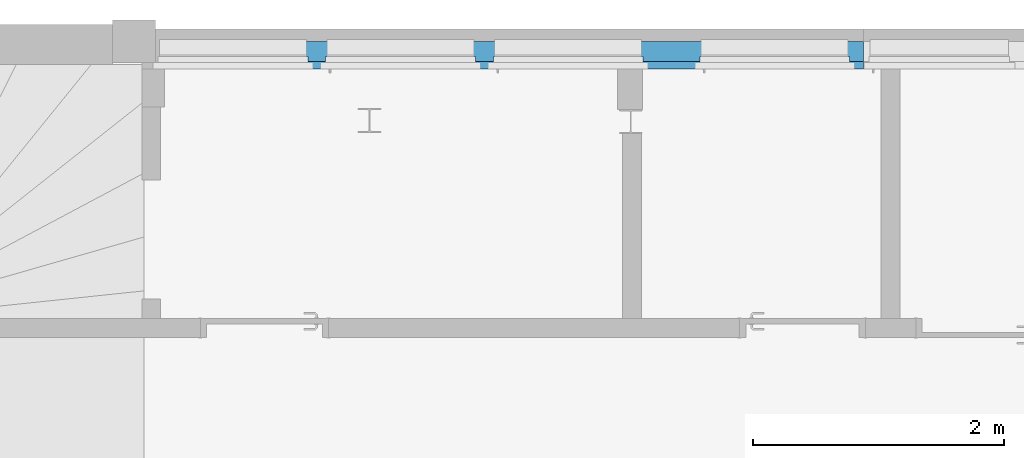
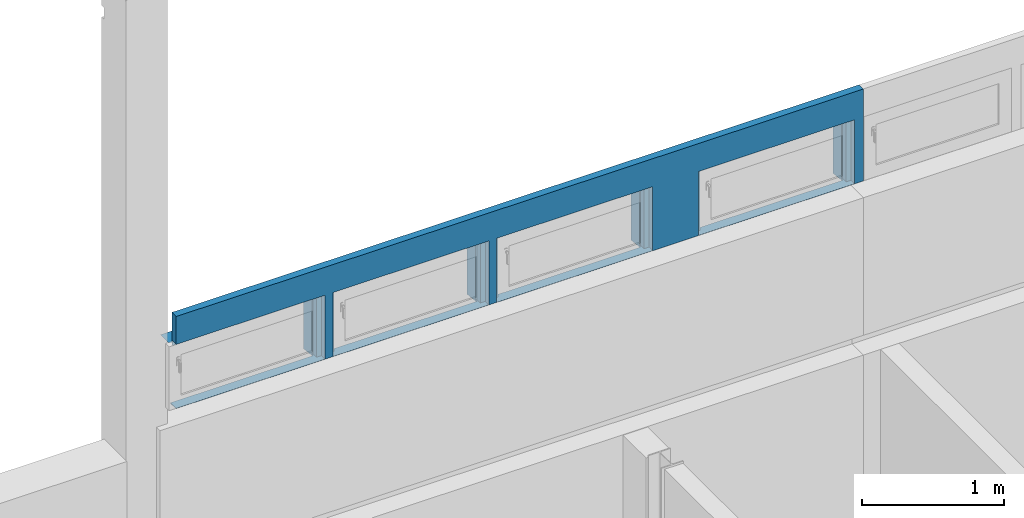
# One storey, part 15 of 39: 1 wall, 4 openings.
"""IFC4 building model written with IfcOpenShell, lengths in metres."""

from ifc_helpers import new_model, entity, si_unit, converted_unit, derived_unit, direction, frame, origin, place, context, subcontext, project, spatial, polygons, material, layer, layer_set, type_object, element, save


model = new_model("IFC4")

# Units and contexts
model_context = context("Model", 3, precision=1e-05, world=origin(), true_north=direction((6.12303176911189e-17, 1.0)))
body_context = subcontext(model_context, "Body", "Model", "MODEL_VIEW")
ifc_project = project(units=[si_unit("LENGTHUNIT", "METRE"), si_unit("AREAUNIT", "SQUARE_METRE"), si_unit("VOLUMEUNIT", "CUBIC_METRE"), converted_unit("PLANEANGLEUNIT", "DEGREE", entity("IfcRatioMeasure", 0.0174532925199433), si_unit("PLANEANGLEUNIT", "RADIAN"), dimensions=[0, 0, 0, 0, 0, 0, 0]), si_unit("MASSUNIT", "GRAM", prefix="KILO"), derived_unit("MASSDENSITYUNIT", [(si_unit("MASSUNIT", "GRAM", prefix="KILO"), 1), (si_unit("LENGTHUNIT", "METRE"), -3)]), derived_unit("MOMENTOFINERTIAUNIT", [(si_unit("LENGTHUNIT", "METRE"), 4)]), si_unit("TIMEUNIT", "SECOND"), si_unit("FREQUENCYUNIT", "HERTZ"), si_unit("THERMODYNAMICTEMPERATUREUNIT", "DEGREE_CELSIUS"), derived_unit("THERMALTRANSMITTANCEUNIT", [(si_unit("MASSUNIT", "GRAM", prefix="KILO"), 1), (si_unit("THERMODYNAMICTEMPERATUREUNIT", "KELVIN"), -1), (si_unit("TIMEUNIT", "SECOND"), -3)]), derived_unit("VOLUMETRICFLOWRATEUNIT", [(si_unit("LENGTHUNIT", "METRE"), 3), (si_unit("TIMEUNIT", "SECOND"), -1)]), si_unit("ELECTRICCURRENTUNIT", "AMPERE"), si_unit("ELECTRICVOLTAGEUNIT", "VOLT"), si_unit("POWERUNIT", "WATT"), si_unit("FORCEUNIT", "NEWTON", prefix="KILO"), si_unit("ILLUMINANCEUNIT", "LUX"), si_unit("LUMINOUSFLUXUNIT", "LUMEN"), si_unit("LUMINOUSINTENSITYUNIT", "CANDELA"), derived_unit("USERDEFINED", [(si_unit("MASSUNIT", "GRAM", prefix="KILO"), -1), (si_unit("LENGTHUNIT", "METRE"), -2), (si_unit("TIMEUNIT", "SECOND"), 3), (si_unit("LUMINOUSFLUXUNIT", "LUMEN"), 1)]), derived_unit("LINEARVELOCITYUNIT", [(si_unit("LENGTHUNIT", "METRE"), 1), (si_unit("TIMEUNIT", "SECOND"), -1)]), si_unit("PRESSUREUNIT", "PASCAL"), derived_unit("USERDEFINED", [(si_unit("LENGTHUNIT", "METRE"), -2), (si_unit("MASSUNIT", "GRAM", prefix="KILO"), 1), (si_unit("TIMEUNIT", "SECOND"), -2)]), derived_unit("LINEARFORCEUNIT", [(si_unit("MASSUNIT", "GRAM", prefix="KILO"), 1), (si_unit("LENGTHUNIT", "METRE"), 1), (si_unit("TIMEUNIT", "SECOND"), -2), (si_unit("LENGTHUNIT", "METRE"), -1)]), derived_unit("PLANARFORCEUNIT", [(si_unit("MASSUNIT", "GRAM", prefix="KILO"), 1), (si_unit("LENGTHUNIT", "METRE"), 1), (si_unit("TIMEUNIT", "SECOND"), -2), (si_unit("LENGTHUNIT", "METRE"), -2)])], contexts=[model_context])

# Site, building, storey
site_placement = place(None, origin())
site = spatial("IfcSite", under=ifc_project, at=site_placement, Name="Default", CompositionType="ELEMENT")
building_placement = place(site_placement, origin())
building = spatial("IfcBuilding", under=site, at=building_placement, Name="HOTEL CONSULAIRE BOULOGNE SUR MER", CompositionType="ELEMENT")
storey_placement = place(building_placement, frame((0.0, 0.0, -5.02343668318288)))
storey = spatial("IfcBuildingStorey", under=building, at=storey_placement, Name="SS3", CompositionType="ELEMENT", Elevation=-5.02343668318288)

# Wall, openings
ifc_material = material(Name="Mur par défaut", Category="Divers")
ifc_layer = layer(ifc_material, 0.22, Name="Mur par défaut", Category="Divers")
ifc_layer_set = layer_set([ifc_layer], Name="Mur de base:Générique - Ext. 220 mm")
wall_type = type_object("IfcWallType", Name="Mur de base:Générique - Ext. 220 mm", PredefinedType="NOTDEFINED", material=ifc_layer_set)
wall_placement = place(storey_placement, frame((-1.1294235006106, -10.02432416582, 3.9387775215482)))
wall = element("IfcWall", 1, at=wall_placement, inside=storey, type_object=wall_type, material=ifc_layer_set, Name="Mur de base:Générique - Ext. 220 mm", ObjectType="Mur de base:Générique - Ext. 220 mm", PredefinedType="NOTDEFINED", context=body_context, shape_type="Tessellation", body=[
    polygons([(1.76596894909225e-15, 0.110000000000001, 0.524459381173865), (1.8350879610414e-15, -0.00999999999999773, 0.524459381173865), (1.8350879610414e-15, -0.00999999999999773, 0.524659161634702), (1.76596894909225e-15, 0.110000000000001, 0.524659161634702), (1.96036633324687e-15, -0.109999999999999, 0.0244593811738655), (1.9142869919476e-15, -0.0300000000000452, 0.0244593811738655), (1.91428699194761e-15, -0.0300000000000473, 0.0147145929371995), (1.96036633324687e-15, -0.109999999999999, 0.023122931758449), (5.592, -0.109999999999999, 0.814659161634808), (5.58760027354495, -0.109999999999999, 0.814659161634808), (5.50760027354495, -0.109999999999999, 0.814659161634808), (2.63715828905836e-15, -0.109999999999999, 0.814659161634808), (4.71424030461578e-16, -0.109999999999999, 0.574459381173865), (1.211, -0.109999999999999, 0.574459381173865), (1.211, -0.109999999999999, 0.0244593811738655), (1.161, -0.109999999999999, 0.0244593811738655), (5.592, -0.109999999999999, 0.0231229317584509), (2.60700000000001, -0.109999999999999, 0.0244593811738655), (2.60700000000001, -0.109999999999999, 0.574459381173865), (3.877, -0.109999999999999, 0.574459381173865), (3.877, -0.109999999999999, 0.0244593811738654), (4.2500475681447, -0.109999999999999, 0.0244593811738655), (4.2500475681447, -0.109999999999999, 0.574459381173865), (5.5200475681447, -0.109999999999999, 0.574459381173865), (5.5200475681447, -0.109999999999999, 0.0244593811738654), (2.544, -0.109999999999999, 0.0244593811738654), (1.27400000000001, -0.109999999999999, 0.0244593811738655), (1.27400000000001, -0.109999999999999, 0.574459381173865), (2.544, -0.109999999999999, 0.574459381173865), (3.827, 0.110000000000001, 0.524459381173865), (2.65700000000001, 0.110000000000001, 0.524459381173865), (2.65700000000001, 0.110000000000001, 5.41433564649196e-16), (2.494, 0.109999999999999, 5.41433564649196e-16), (2.494, 0.109999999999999, 0.524459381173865), (1.32400000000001, 0.110000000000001, 0.524459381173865), (1.32400000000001, 0.110000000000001, 0.0), (1.16100000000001, 0.110000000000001, 0.0), (1.161, 0.110000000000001, 0.524459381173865), (5.592, 0.110000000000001, 0.524659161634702), (5.592, 0.110000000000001, 1.48894230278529e-15), (5.4700475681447, 0.110000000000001, 1.35358391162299e-15), (5.4700475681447, 0.110000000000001, 0.524459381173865), (4.3000475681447, 0.110000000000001, 0.524459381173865), (4.3000475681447, 0.110000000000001, 1.08286712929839e-15), (3.827, 0.110000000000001, 8.12150346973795e-16), (5.592, -0.0503081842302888, 0.814659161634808), (5.592, -0.050308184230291, 0.524659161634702), (2.40078159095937e-15, -0.0503081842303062, 0.814659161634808), (2.657, -0.00999999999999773, 0.0244593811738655), (2.657, -0.0300000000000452, 0.0244593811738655), (2.657, -0.0300000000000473, 0.0147145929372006), (2.657, -0.00999999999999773, 0.524459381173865), (3.827, -0.0300000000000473, 0.0244593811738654), (3.827, -0.00999999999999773, 0.0244593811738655), (3.827, -0.00999999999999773, 0.524459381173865), (3.827, -0.0300000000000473, 0.0147145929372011), (2.647, -0.00999999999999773, 0.0244593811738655), (2.647, -0.0600000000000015, 0.0244593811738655), (2.60700000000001, -0.0600000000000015, 0.0244593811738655), (3.877, -0.0600000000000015, 0.0244593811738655), (3.837, -0.0600000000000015, 0.0244593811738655), (3.837, -0.00999999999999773, 0.0244593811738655), (2.60700000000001, -0.0600000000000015, 0.574459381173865), (2.647, -0.0600000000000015, 0.534459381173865), (3.837, -0.0600000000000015, 0.534459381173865), (3.877, -0.0600000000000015, 0.574459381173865), (2.647, -0.00999999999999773, 0.524659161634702), (2.647, -0.0503081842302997, 0.524659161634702), (2.647, -0.0503081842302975, 0.534459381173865), (3.837, -0.00999999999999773, 0.524659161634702), (3.837, -0.0503081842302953, 0.534459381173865), (3.837, -0.0503081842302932, 0.524659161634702), (4.3000475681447, -0.00999999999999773, 0.0244593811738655), (4.3000475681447, -0.0300000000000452, 0.0244593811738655), (4.3000475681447, -0.0300000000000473, 0.014714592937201), (4.3000475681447, -0.00999999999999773, 0.524459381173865), (5.4700475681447, -0.0300000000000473, 0.0244593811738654), (5.4700475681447, -0.00999999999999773, 0.0244593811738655), (5.4700475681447, -0.00999999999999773, 0.524459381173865), (5.4700475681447, -0.0300000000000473, 0.0147145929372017), (4.2900475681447, -0.00999999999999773, 0.0244593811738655), (4.29004756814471, -0.0600000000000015, 0.0244593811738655), (4.25004756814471, -0.0600000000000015, 0.0244593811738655), (5.5200475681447, -0.0600000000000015, 0.0244593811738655), (5.4800475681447, -0.0600000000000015, 0.0244593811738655), (5.4800475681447, -0.00999999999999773, 0.0244593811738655), (4.25004756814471, -0.0600000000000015, 0.574459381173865), (4.29004756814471, -0.0600000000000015, 0.534459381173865), (5.4800475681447, -0.0600000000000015, 0.534459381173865), (5.5200475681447, -0.0600000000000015, 0.574459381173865), (4.29004756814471, -0.00999999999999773, 0.524659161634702), (4.29004756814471, -0.0503081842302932, 0.524659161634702), (4.29004756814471, -0.0503081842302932, 0.534459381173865), (5.4800475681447, -0.00999999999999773, 0.524659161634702), (5.4800475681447, -0.0503081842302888, 0.534459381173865), (5.4800475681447, -0.0503081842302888, 0.524659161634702), (1.324, -0.00999999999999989, 0.524459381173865), (1.324, -0.00999999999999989, 0.0244593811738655), (1.324, -0.0300000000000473, 0.0244593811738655), (1.324, -0.0300000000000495, 0.0147145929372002), (2.494, -0.0300000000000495, 0.0244593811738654), (2.494, -0.00999999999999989, 0.0244593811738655), (2.494, -0.00999999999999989, 0.524459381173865), (2.494, -0.0300000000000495, 0.0147145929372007), (1.314, -0.00999999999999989, 0.0244593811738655), (1.314, -0.0600000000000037, 0.0244593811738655), (1.274, -0.0600000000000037, 0.0244593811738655), (2.544, -0.0600000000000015, 0.0244593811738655), (2.504, -0.0600000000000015, 0.0244593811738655), (2.504, -0.00999999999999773, 0.0244593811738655), (1.274, -0.0600000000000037, 0.574459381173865), (1.314, -0.0600000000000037, 0.534459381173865), (2.504, -0.0600000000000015, 0.534459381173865), (2.544, -0.0600000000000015, 0.574459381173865), (1.314, -0.00999999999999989, 0.524659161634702), (1.314, -0.050308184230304, 0.524659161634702), (1.314, -0.050308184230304, 0.534459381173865), (2.504, -0.00999999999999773, 0.524659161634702), (2.504, -0.0503081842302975, 0.534459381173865), (2.504, -0.0503081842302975, 0.524659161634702), (1.161, -0.0300000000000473, 0.0244593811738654), (1.161, -0.00999999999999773, 0.0244593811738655), (1.161, -0.00999999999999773, 0.524459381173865), (1.161, -0.0300000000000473, 0.0147145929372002), (1.211, -0.0600000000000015, 0.0244593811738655), (1.171, -0.0600000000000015, 0.0244593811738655), (1.171, -0.00999999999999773, 0.0244593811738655), (1.211, -0.0600000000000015, 0.574459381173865), (1.89772714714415e-15, -0.0600000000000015, 0.574459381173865), (1.76236875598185e-15, -0.0600000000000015, 0.534459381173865), (1.171, -0.0600000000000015, 0.534459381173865), (1.171, -0.00999999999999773, 0.524659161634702), (1.85934802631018e-15, -0.0503081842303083, 0.534459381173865), (1.171, -0.050308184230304, 0.534459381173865), (1.171, -0.050308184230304, 0.524659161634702)], [[[4, 1, 2, 3]], [[6, 7, 8, 5]], [[56, 53, 54, 55, 30, 45]], [[21, 20, 66, 60]], [[65, 71, 72, 70, 62, 61]], [[80, 77, 78, 79, 42, 41]], [[25, 24, 90, 84]], [[89, 95, 96, 94, 86, 85]], [[104, 101, 102, 103, 34, 33]], [[26, 29, 114, 108]], [[113, 119, 120, 118, 110, 109]], [[124, 121, 122, 123, 38, 37]], [[15, 14, 128, 125]], [[131, 134, 135, 132, 127, 126]], [[129, 13, 12, 48, 133, 130]], [[5, 8, 17, 9, 10, 11, 12, 13, 14, 15, 16], [27, 28, 29, 26], [18, 19, 20, 21], [22, 23, 24, 25]], [[64, 65, 61, 60, 66, 63, 59, 58]], [[52, 55, 54, 62, 70, 67, 57, 49]], [[88, 89, 85, 84, 90, 87, 83, 82]], [[76, 79, 78, 86, 94, 91, 81, 73]], [[112, 113, 109, 108, 114, 111, 107, 106]], [[97, 103, 102, 110, 118, 115, 105, 98]], [[131, 126, 125, 128, 129, 130]], [[123, 122, 127, 132, 3, 2]], [[42, 43, 44, 45, 30, 31, 32, 33, 34, 35, 36, 37, 38, 1, 4, 39, 40, 41]], [[53, 56, 51, 50]], [[80, 75, 74, 77]], [[101, 104, 100, 99]], [[124, 7, 6, 121]], [[95, 93, 92, 72, 71, 69, 68, 120, 119, 117, 116, 135, 134, 133, 48, 46, 47, 96]], [[46, 9, 17, 40, 39, 47]], [[49, 50, 51, 32, 31, 52]], [[19, 18, 59, 63]], [[68, 69, 64, 58, 57, 67]], [[73, 74, 75, 44, 43, 76]], [[23, 22, 83, 87]], [[92, 93, 88, 82, 81, 91]], [[98, 99, 100, 36, 35, 97]], [[28, 27, 107, 111]], [[116, 117, 112, 106, 105, 115]], [[10, 9, 46, 48, 12, 11]], [[50, 49, 57, 58, 59, 18, 21, 60, 61, 62, 54, 53]], [[74, 73, 81, 82, 83, 22, 25, 84, 85, 86, 78, 77]], [[99, 98, 105, 106, 107, 27, 26, 108, 109, 110, 102, 101]], [[16, 15, 125, 126, 127, 122, 121, 6, 5]], [[96, 47, 39, 4, 3, 132, 135, 116, 115, 118, 120, 68, 67, 70, 72, 92, 91, 94]], [[55, 52, 31, 30]], [[66, 20, 19, 63]], [[65, 64, 69, 71]], [[79, 76, 43, 42]], [[90, 24, 23, 87]], [[95, 89, 88, 93]], [[103, 97, 35, 34]], [[114, 29, 28, 111]], [[113, 112, 117, 119]], [[123, 2, 1, 38]], [[14, 13, 129, 128]], [[131, 130, 133, 134]], [[124, 37, 36, 100, 104, 33, 32, 51, 56, 45, 44, 75, 80, 41, 40, 17, 8, 7]]], closed=True),
])
opening_1_placement = place(wall_placement, frame((1.274, -0.500000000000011, -0.0462458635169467)))
element("IfcOpeningElement", 2, at=opening_1_placement, cuts=wall, Name="Mur de base:Générique - Ext. 220 mm", ObjectType="Opening", PredefinedType="OPENING", context=body_context, shape_type="Tessellation", body=[
    polygons([(0.0499999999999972, 6.49720277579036e-15, 0.570705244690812), (0.0499999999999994, 0.390000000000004, 0.570705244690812), (0.0499999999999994, 0.390000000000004, 0.0707052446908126), (0.0499999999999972, 6.49720277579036e-15, 0.0707052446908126), (1.22, 1.0, 0.570705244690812), (1.22, 0.490000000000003, 0.570705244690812), (1.22, 0.490000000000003, 0.0707052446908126), (1.22, 0.469999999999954, 0.0707052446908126), (1.22, 0.469999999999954, 0.0557052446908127), (1.22, 1.0, 0.0), (1.22, 0.0, 0.570705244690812), (1.22, 0.39, 0.570705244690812), (0.0499999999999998, 0.46999999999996, 0.0707052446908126), (0.0499999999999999, 0.490000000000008, 0.0707052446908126), (0.0499999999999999, 0.490000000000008, 0.570705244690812), (0.0500000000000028, 1.00000000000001, 0.570705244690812), (0.0500000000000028, 1.00000000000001, 0.0), (0.0499999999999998, 0.46999999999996, 0.0557052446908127), (1.22, 0.0, 0.0707052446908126), (1.22, 0.39, 0.0707052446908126), (6.76791955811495e-17, 0.390000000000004, 0.0707052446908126), (2.70716782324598e-16, 0.440000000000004, 0.0707052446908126), (0.0399999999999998, 0.440000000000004, 0.0707052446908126), (0.04, 0.490000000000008, 0.0707052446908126), (1.23, 0.490000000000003, 0.0707052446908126), (1.23, 0.44, 0.0707052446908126), (1.27, 0.44, 0.0707052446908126), (1.27, 0.39, 0.0707052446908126), (1.01518793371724e-16, 0.390000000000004, 0.620705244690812), (3.04556380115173e-16, 0.440000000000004, 0.620705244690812), (1.27, 0.44, 0.620705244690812), (1.23, 0.44, 0.580705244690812), (0.0399999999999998, 0.440000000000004, 0.580705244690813), (0.04, 0.490000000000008, 0.580705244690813), (1.23, 0.490000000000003, 0.580705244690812), (1.27, 0.39, 0.620705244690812)], [[[2, 3, 4, 1]], [[16, 17, 18, 13, 14, 15]], [[22, 21, 29, 30]], [[24, 23, 33, 34]], [[7, 8, 9, 10, 5, 6]], [[11, 19, 20, 12]], [[31, 36, 28, 27]], [[35, 32, 26, 25]], [[2, 1, 11, 12]], [[16, 15, 6, 5]], [[30, 29, 36, 31]], [[34, 33, 32, 35]], [[24, 14, 13, 8, 7, 25, 26, 27, 28, 20, 19, 4, 3, 21, 22, 23]], [[1, 4, 19, 11]], [[13, 18, 9, 8]], [[20, 28, 36, 29, 21, 3, 2, 12]], [[17, 16, 5, 10]], [[23, 22, 30, 31, 27, 26, 32, 33]], [[14, 24, 34, 35, 25, 7, 6, 15]], [[18, 17, 10, 9]]], closed=True),
])
opening_2_placement = place(wall_placement, frame((-0.0589999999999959, -0.500000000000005, -0.0462458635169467)))
element("IfcOpeningElement", 3, at=opening_2_placement, cuts=wall, Name="Mur de base:Générique - Ext. 220 mm", ObjectType="Opening", PredefinedType="OPENING", context=body_context, shape_type="Tessellation", body=[
    polygons([(0.049999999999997, 6.49720277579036e-15, 0.570705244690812), (0.0499999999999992, 0.390000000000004, 0.570705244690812), (0.0499999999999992, 0.390000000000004, 0.0707052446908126), (0.049999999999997, 6.49720277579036e-15, 0.0707052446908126), (1.22, 1.0, 0.570705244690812), (1.22, 0.490000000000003, 0.570705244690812), (1.22, 0.490000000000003, 0.0707052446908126), (1.22, 0.469999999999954, 0.0707052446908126), (1.22, 0.469999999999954, 0.0557052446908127), (1.22, 1.0, 0.0), (1.22, 0.0, 0.570705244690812), (1.22, 0.39, 0.570705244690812), (0.0499999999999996, 0.46999999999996, 0.0707052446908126), (0.0499999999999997, 0.490000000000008, 0.0707052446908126), (0.0499999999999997, 0.490000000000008, 0.570705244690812), (0.0500000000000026, 1.00000000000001, 0.570705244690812), (0.0500000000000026, 1.00000000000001, 0.0), (0.0499999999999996, 0.46999999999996, 0.0557052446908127), (1.22, 0.0, 0.0707052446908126), (1.22, 0.39, 0.0707052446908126), (0.0, 0.390000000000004, 0.0707052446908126), (1.35358391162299e-16, 0.440000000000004, 0.0707052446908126), (0.0399999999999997, 0.440000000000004, 0.0707052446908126), (0.04, 0.490000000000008, 0.0707052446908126), (1.23, 0.490000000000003, 0.0707052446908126), (1.23, 0.44, 0.0707052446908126), (1.27, 0.44, 0.0707052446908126), (1.27, 0.39, 0.0707052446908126), (0.0, 0.390000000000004, 0.620705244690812), (1.35358391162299e-16, 0.440000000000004, 0.620705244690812), (1.27, 0.44, 0.620705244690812), (1.23, 0.44, 0.580705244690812), (0.0399999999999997, 0.440000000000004, 0.580705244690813), (0.0399999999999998, 0.490000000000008, 0.580705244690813), (1.23, 0.490000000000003, 0.580705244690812), (1.27, 0.39, 0.620705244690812)], [[[2, 3, 4, 1]], [[16, 17, 18, 13, 14, 15]], [[22, 21, 29, 30]], [[24, 23, 33, 34]], [[7, 8, 9, 10, 5, 6]], [[11, 19, 20, 12]], [[31, 36, 28, 27]], [[35, 32, 26, 25]], [[2, 1, 11, 12]], [[16, 15, 6, 5]], [[30, 29, 36, 31]], [[34, 33, 32, 35]], [[24, 14, 13, 8, 7, 25, 26, 27, 28, 20, 19, 4, 3, 21, 22, 23]], [[1, 4, 19, 11]], [[13, 18, 9, 8]], [[20, 28, 36, 29, 21, 3, 2, 12]], [[17, 16, 5, 10]], [[23, 22, 30, 31, 27, 26, 32, 33]], [[14, 24, 34, 35, 25, 7, 6, 15]], [[18, 17, 10, 9]]], closed=True),
])
opening_3_placement = place(wall_placement, frame((2.607, -0.500000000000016, -0.0462458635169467)))
element("IfcOpeningElement", 4, at=opening_3_placement, cuts=wall, Name="Mur de base:Générique - Ext. 220 mm", ObjectType="Opening", PredefinedType="OPENING", context=body_context, shape_type="Tessellation", body=[
    polygons([(0.0499999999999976, 6.49720277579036e-15, 0.570705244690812), (0.0499999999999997, 0.390000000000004, 0.570705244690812), (0.0499999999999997, 0.390000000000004, 0.0707052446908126), (0.0499999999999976, 6.49720277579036e-15, 0.0707052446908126), (1.22, 1.0, 0.570705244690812), (1.22, 0.490000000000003, 0.570705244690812), (1.22, 0.490000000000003, 0.0707052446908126), (1.22, 0.469999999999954, 0.0707052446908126), (1.22, 0.469999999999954, 0.0557052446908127), (1.22, 1.0, 0.0), (1.22, 0.0, 0.570705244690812), (1.22, 0.39, 0.570705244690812), (0.0500000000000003, 0.46999999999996, 0.0707052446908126), (0.0500000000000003, 0.490000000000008, 0.0707052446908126), (0.0500000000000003, 0.490000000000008, 0.570705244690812), (0.0500000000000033, 1.00000000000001, 0.570705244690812), (0.0500000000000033, 1.00000000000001, 0.0), (0.0500000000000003, 0.46999999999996, 0.0557052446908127), (1.22, 0.0, 0.0707052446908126), (1.22, 0.39, 0.0707052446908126), (5.41433564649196e-16, 0.390000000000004, 0.0707052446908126), (8.12150346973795e-16, 0.440000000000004, 0.0707052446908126), (0.0400000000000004, 0.440000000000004, 0.0707052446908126), (0.0400000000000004, 0.490000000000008, 0.0707052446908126), (1.23, 0.490000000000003, 0.0707052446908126), (1.23, 0.44, 0.0707052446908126), (1.27, 0.44, 0.0707052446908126), (1.27, 0.39, 0.0707052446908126), (2.70716782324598e-16, 0.390000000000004, 0.620705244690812), (5.41433564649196e-16, 0.440000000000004, 0.620705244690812), (1.27, 0.44, 0.620705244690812), (1.23, 0.44, 0.580705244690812), (0.0400000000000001, 0.440000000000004, 0.580705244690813), (0.0400000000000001, 0.490000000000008, 0.580705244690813), (1.23, 0.490000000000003, 0.580705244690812), (1.27, 0.39, 0.620705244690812)], [[[2, 3, 4, 1]], [[16, 17, 18, 13, 14, 15]], [[22, 21, 29, 30]], [[24, 23, 33, 34]], [[7, 8, 9, 10, 5, 6]], [[11, 19, 20, 12]], [[31, 36, 28, 27]], [[35, 32, 26, 25]], [[2, 1, 11, 12]], [[16, 15, 6, 5]], [[30, 29, 36, 31]], [[34, 33, 32, 35]], [[24, 14, 13, 8, 7, 25, 26, 27, 28, 20, 19, 4, 3, 21, 22, 23]], [[1, 4, 19, 11]], [[13, 18, 9, 8]], [[20, 28, 36, 29, 21, 3, 2, 12]], [[17, 16, 5, 10]], [[23, 22, 30, 31, 27, 26, 32, 33]], [[14, 24, 34, 35, 25, 7, 6, 15]], [[18, 17, 10, 9]]], closed=True),
])
opening_4_placement = place(wall_placement, frame((4.25004756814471, -0.500000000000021, -0.0462458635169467)))
element("IfcOpeningElement", 5, at=opening_4_placement, cuts=wall, Name="Mur de base:Générique - Ext. 220 mm", ObjectType="Opening", PredefinedType="OPENING", context=body_context, shape_type="Tessellation", body=[
    polygons([(1.22, 0.0, 0.570705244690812), (1.22, 0.39, 0.570705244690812), (0.0499999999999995, 0.390000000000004, 0.570705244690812), (0.0499999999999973, 6.49720277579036e-15, 0.570705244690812), (1.22, 1.0, 0.570705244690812), (1.22, 0.490000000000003, 0.570705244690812), (1.22, 0.490000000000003, 0.0707052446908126), (1.22, 0.469999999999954, 0.0707052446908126), (1.22, 0.469999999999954, 0.0557052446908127), (1.22, 1.0, 0.0), (0.0499999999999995, 0.390000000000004, 0.0707052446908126), (0.0499999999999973, 6.49720277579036e-15, 0.0707052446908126), (0.05, 0.46999999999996, 0.0707052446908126), (0.05, 0.490000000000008, 0.0707052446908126), (0.05, 0.490000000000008, 0.570705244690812), (0.0500000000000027, 1.00000000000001, 0.570705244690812), (0.0500000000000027, 1.00000000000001, 0.0), (0.05, 0.46999999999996, 0.0557052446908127), (1.22, 0.0, 0.0707052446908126), (1.22, 0.39, 0.0707052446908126), (0.0, 0.390000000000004, 0.0707052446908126), (5.41433564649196e-16, 0.440000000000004, 0.0707052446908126), (0.0400000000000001, 0.440000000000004, 0.0707052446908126), (0.0400000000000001, 0.490000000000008, 0.0707052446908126), (1.23, 0.490000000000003, 0.0707052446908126), (1.23, 0.44, 0.0707052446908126), (1.27, 0.44, 0.0707052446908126), (1.27, 0.39, 0.0707052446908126), (5.41433564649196e-16, 0.390000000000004, 0.620705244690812), (5.41433564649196e-16, 0.440000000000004, 0.620705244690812), (1.27, 0.44, 0.620705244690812), (1.23, 0.44, 0.580705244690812), (0.0400000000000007, 0.440000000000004, 0.580705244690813), (0.0400000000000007, 0.490000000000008, 0.580705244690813), (1.23, 0.490000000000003, 0.580705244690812), (1.27, 0.39, 0.620705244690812)], [[[3, 4, 1, 2]], [[16, 15, 6, 5]], [[30, 29, 36, 31]], [[34, 33, 32, 35]], [[7, 8, 9, 10, 5, 6]], [[1, 19, 20, 2]], [[31, 36, 28, 27]], [[35, 32, 26, 25]], [[3, 11, 12, 4]], [[16, 17, 18, 13, 14, 15]], [[22, 21, 29, 30]], [[24, 23, 33, 34]], [[24, 14, 13, 8, 7, 25, 26, 27, 28, 20, 19, 12, 11, 21, 22, 23]], [[4, 12, 19, 1]], [[13, 18, 9, 8]], [[20, 28, 36, 29, 21, 11, 3, 2]], [[17, 16, 5, 10]], [[23, 22, 30, 31, 27, 26, 32, 33]], [[14, 24, 34, 35, 25, 7, 6, 15]], [[18, 17, 10, 9]]], closed=True),
])

save(model, "model.ifc")
